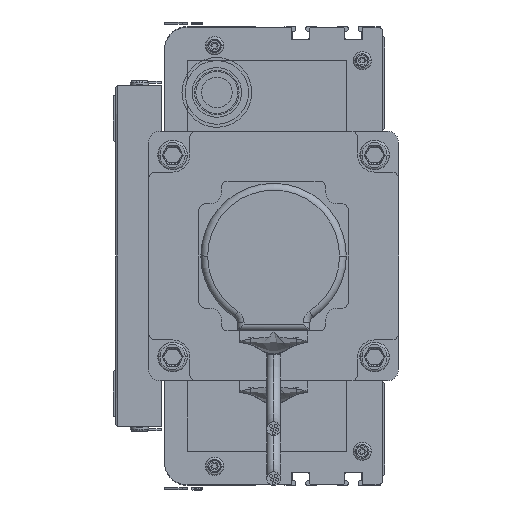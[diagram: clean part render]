
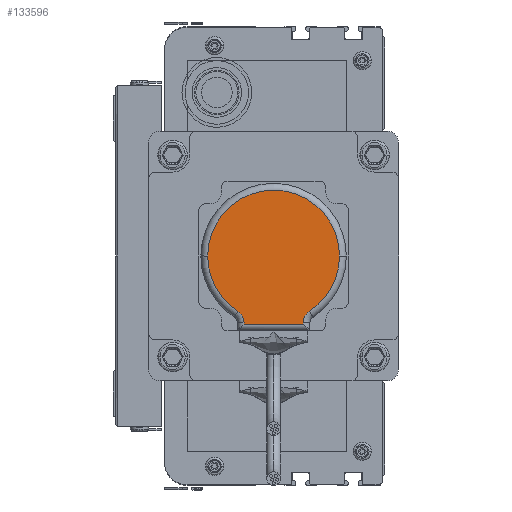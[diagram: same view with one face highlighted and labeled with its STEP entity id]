
A CAD part, left-side view. The second image highlights one B-rep face of the part: STEP entity #133596.
In plain terms, the highlighted planar face has unit normal (-1, 0, 0) as drawn and (0, 0, 1) by its records, which use the part's own axes.
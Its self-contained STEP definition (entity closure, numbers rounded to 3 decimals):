
#79337 = CARTESIAN_POINT ( 'NONE',  ( 4., 33., 25. ) ) ;
#79429 = CARTESIAN_POINT ( 'NONE',  ( 17.257, 57.355, 25. ) ) ;
#79998 = CARTESIAN_POINT ( 'NONE',  ( 20., 63., 25. ) ) ;
#79999 = DIRECTION ( 'NONE',  ( 1., 0., 0. ) ) ;
#80000 = DIRECTION ( 'NONE',  ( 0., 0., 1. ) ) ;
#80014 = CIRCLE ( 'NONE', #80038, 29. ) ;
#80015 = CARTESIAN_POINT ( 'NONE',  ( 52., 62.394, 25. ) ) ;
#80025 = CARTESIAN_POINT ( 'NONE',  ( 33., 33., 25. ) ) ;
#80027 = DIRECTION ( 'NONE',  ( 1., 0., 0. ) ) ;
#80030 = DIRECTION ( 'NONE',  ( 0., 0., 1. ) ) ;
#80031 = CARTESIAN_POINT ( 'NONE',  ( 33., 33., 25. ) ) ;
#80032 = AXIS2_PLACEMENT_3D ( 'NONE', #80031, #80030, #80027 ) ;
#80036 = CARTESIAN_POINT ( 'NONE',  ( 46., 62.394, 25. ) ) ;
#80038 = AXIS2_PLACEMENT_3D ( 'NONE', #80025, #80000, #79999 ) ;
#80040 = CIRCLE ( 'NONE', #80032, 29. ) ;
#80042 = CIRCLE ( 'NONE', #80111, 6. ) ;
#80048 = CARTESIAN_POINT ( 'NONE',  ( 62., 33., 25. ) ) ;
#80054 = CIRCLE ( 'NONE', #80162, 29. ) ;
#80055 = DIRECTION ( 'NONE',  ( 0., 1., 0. ) ) ;
#80056 = VECTOR ( 'NONE', #80055, 1000. ) ;
#80058 = CARTESIAN_POINT ( 'NONE',  ( 46., 33., 25. ) ) ;
#80060 = LINE ( 'NONE', #80058, #80056 ) ;
#80069 = CARTESIAN_POINT ( 'NONE',  ( 48.743, 57.355, 25. ) ) ;
#80104 = CARTESIAN_POINT ( 'NONE',  ( 20., 62.394, 25. ) ) ;
#80108 = DIRECTION ( 'NONE',  ( 1., 0., 0. ) ) ;
#80109 = DIRECTION ( 'NONE',  ( 0., 0., 1. ) ) ;
#80111 = AXIS2_PLACEMENT_3D ( 'NONE', #80015, #80109, #80108 ) ;
#80113 = CARTESIAN_POINT ( 'NONE',  ( 46., 63., 25. ) ) ;
#80136 = DIRECTION ( 'NONE',  ( 1., 0., 0. ) ) ;
#80138 = DIRECTION ( 'NONE',  ( 0., 0., 1. ) ) ;
#80158 = CARTESIAN_POINT ( 'NONE',  ( 33., 33., 25. ) ) ;
#80162 = AXIS2_PLACEMENT_3D ( 'NONE', #80158, #80138, #80136 ) ;
#80281 = LINE ( 'NONE', #80370, #80368 ) ;
#80325 = DIRECTION ( 'NONE',  ( 1., 0., 0. ) ) ;
#80327 = PLANE ( 'NONE',  #80359 ) ;
#80350 = CARTESIAN_POINT ( 'NONE',  ( 14., 62.394, 25. ) ) ;
#80358 = CIRCLE ( 'NONE', #80445, 6. ) ;
#80359 = AXIS2_PLACEMENT_3D ( 'NONE', #80436, #80458, #80325 ) ;
#80366 = DIRECTION ( 'NONE',  ( 0., -1., 0. ) ) ;
#80368 = VECTOR ( 'NONE', #80366, 1000. ) ;
#80370 = CARTESIAN_POINT ( 'NONE',  ( 20., 33., 25. ) ) ;
#80376 = DIRECTION ( 'NONE',  ( -1., 0., 0. ) ) ;
#80378 = VECTOR ( 'NONE', #80376, 1000. ) ;
#80383 = CARTESIAN_POINT ( 'NONE',  ( 17.5, 63., 25. ) ) ;
#80384 = LINE ( 'NONE', #80383, #80378 ) ;
#80436 = CARTESIAN_POINT ( 'NONE',  ( 33., 33., 25. ) ) ;
#80440 = FACE_OUTER_BOUND ( 'NONE', #133521, .T. ) ;
#80443 = DIRECTION ( 'NONE',  ( 1., 0., 0. ) ) ;
#80444 = DIRECTION ( 'NONE',  ( 0., 0., 1. ) ) ;
#80445 = AXIS2_PLACEMENT_3D ( 'NONE', #80350, #80444, #80443 ) ;
#80458 = DIRECTION ( 'NONE',  ( 0., 0., 1. ) ) ;
#133437 = VERTEX_POINT ( 'NONE', #79337 ) ;
#133495 = VERTEX_POINT ( 'NONE', #79429 ) ;
#133500 = EDGE_CURVE ( 'NONE', #133495, #133437, #80040, .T. ) ;
#133504 = EDGE_CURVE ( 'NONE', #133531, #133526, #80014, .T. ) ;
#133505 = ORIENTED_EDGE ( 'NONE', *, *, #133527, .T. ) ;
#133506 = EDGE_CURVE ( 'NONE', #133507, #133526, #80042, .T. ) ;
#133507 = VERTEX_POINT ( 'NONE', #80036 ) ;
#133510 = VERTEX_POINT ( 'NONE', #80113 ) ;
#133511 = VERTEX_POINT ( 'NONE', #79998 ) ;
#133519 = ORIENTED_EDGE ( 'NONE', *, *, #133504, .T. ) ;
#133521 = EDGE_LOOP ( 'NONE', ( #133597, #133600, #133599, #133519, #133594, #133505, #133598, #133588 ) ) ;
#133526 = VERTEX_POINT ( 'NONE', #80069 ) ;
#133527 = EDGE_CURVE ( 'NONE', #133507, #133510, #80060, .T. ) ;
#133529 = VERTEX_POINT ( 'NONE', #80104 ) ;
#133531 = VERTEX_POINT ( 'NONE', #80048 ) ;
#133536 = EDGE_CURVE ( 'NONE', #133437, #133531, #80054, .T. ) ;
#133583 = EDGE_CURVE ( 'NONE', #133510, #133511, #80384, .T. ) ;
#133584 = EDGE_CURVE ( 'NONE', #133511, #133529, #80281, .T. ) ;
#133588 = ORIENTED_EDGE ( 'NONE', *, *, #133584, .T. ) ;
#133594 = ORIENTED_EDGE ( 'NONE', *, *, #133506, .F. ) ;
#133595 = EDGE_CURVE ( 'NONE', #133495, #133529, #80358, .T. ) ;
#133596 = ADVANCED_FACE ( 'NONE', ( #80440 ), #80327, .T. ) ;
#133597 = ORIENTED_EDGE ( 'NONE', *, *, #133595, .F. ) ;
#133598 = ORIENTED_EDGE ( 'NONE', *, *, #133583, .T. ) ;
#133599 = ORIENTED_EDGE ( 'NONE', *, *, #133536, .T. ) ;
#133600 = ORIENTED_EDGE ( 'NONE', *, *, #133500, .T. ) ;
